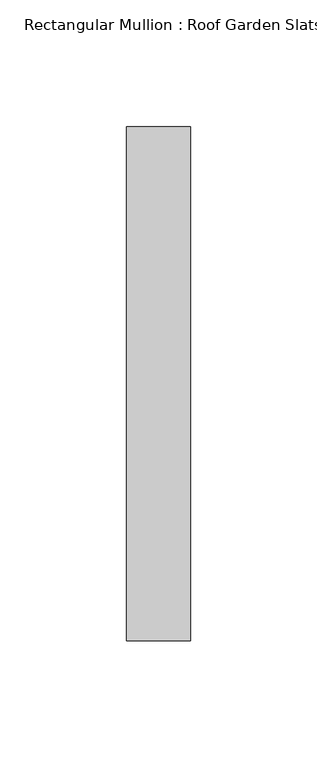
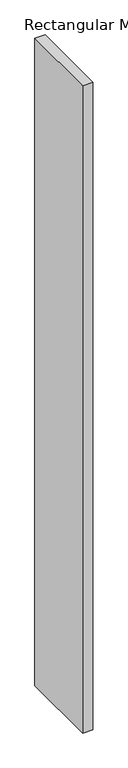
"""IFC4 building model written with IfcOpenShell, lengths in millimetres: member geometry, Rectangular Mullion : Roof Garden Slats."""

import ifcopenshell
import ifcopenshell.guid

model = None  # the IFC model being written
_history = None  # IfcOwnerHistory: only IFC2X3 demands one
_inside = {}  # id of a spatial element -> (the spatial element, [elements in it])
_under = {}  # id of a project, library or spatial element -> (it, [spatial elements below it])
_declared = {}  # id of a project -> (the project, [libraries it declares])
_typed = {}  # id of a type object -> (the type object, [elements of that type])
_made_of = {}  # id of a material, layer set ... -> (it, [elements and type objects made of it])


def new_model(schema):
    """Start an empty IFC model of exactly this schema.

    Asked for "IFC4X3", IfcOpenShell would pick the latest addendum, in which some entities
    have other attributes; the version numbers below select the first issue.
    IFC2X3 requires an IfcOwnerHistory on every rooted entity: one is made here for all.
    """
    global model, _history
    if schema == "IFC4X3":
        model = ifcopenshell.file(schema_version=(4, 3, 0, 0))
    else:
        model = ifcopenshell.file(schema=schema)
    _inside.clear()
    _under.clear()
    _declared.clear()
    _typed.clear()
    _made_of.clear()
    _history = None
    if model.schema == "IFC2X3":
        org = make("IfcOrganization", Name="unknown")
        user = make(
            "IfcPersonAndOrganization",
            ThePerson=make("IfcPerson", FamilyName="unknown"),
            TheOrganization=org,
        )
        app = make(
            "IfcApplication",
            ApplicationDeveloper=org,
            Version="unknown",
            ApplicationFullName="unknown",
            ApplicationIdentifier="unknown",
        )
        _history = make(
            "IfcOwnerHistory",
            OwningUser=user,
            OwningApplication=app,
            ChangeAction="ADDED",
            CreationDate=0,
        )
    return model


def make(cls, **values):
    """One entity of the class cls with the attributes given. An attribute that is None is left unset."""
    return model.create_entity(
        cls, **{name: value for name, value in values.items() if value is not None}
    )


def rooted(cls, **values):
    """An entity with a GlobalId (a new one), such as an element, a storey or a relation."""
    return make(cls, GlobalId=ifcopenshell.guid.new(), OwnerHistory=_history, **values)


def si_unit(unit_type, name, prefix=None):
    """IfcSIUnit, for example si_unit("LENGTHUNIT", "METRE", prefix="MILLI")."""
    return make("IfcSIUnit", UnitType=unit_type, Prefix=prefix, Name=name)


def assignment(units):
    """IfcUnitAssignment: the units of a project."""
    return None if units is None else make("IfcUnitAssignment", Units=units)


def point(xyz):
    """IfcCartesianPoint."""
    return None if xyz is None else make("IfcCartesianPoint", Coordinates=xyz)


def direction(xyz):
    """IfcDirection."""
    return None if xyz is None else make("IfcDirection", DirectionRatios=xyz)


def frame(location, z_axis=None, x_axis=None):
    """IfcAxis2Placement3D, a coordinate frame: its origin and axes. An axis left out is left unset."""
    return make(
        "IfcAxis2Placement3D",
        Location=point(location),
        Axis=direction(z_axis),
        RefDirection=direction(x_axis),
    )


def origin():
    """The frame at (0, 0, 0) with its axes left unset."""
    return frame((0.0, 0.0, 0.0))


def place(relative_to, where):
    """IfcLocalPlacement: puts the frame where relative to a parent placement (None: the world)."""
    return make(
        "IfcLocalPlacement", PlacementRelTo=relative_to, RelativePlacement=where
    )


def context(
    kind, dimensions, precision=None, world=None, true_north=None, identifier=None
):
    """IfcGeometricRepresentationContext, for example the 3D "Model" context."""
    return make(
        "IfcGeometricRepresentationContext",
        ContextIdentifier=identifier,
        ContextType=kind,
        CoordinateSpaceDimension=dimensions,
        Precision=precision,
        WorldCoordinateSystem=world,
        TrueNorth=true_north,
    )


def project(units=None, contexts=None):
    """IfcProject with its units and contexts."""
    return rooted(
        "IfcProject",
        Name="project",
        RepresentationContexts=contexts,
        UnitsInContext=assignment(units),
    )


def spatial(cls, under=None, at=None, **own):
    """A site, building, storey or space (cls), placed at a placement, below another one or the project."""
    s = rooted(cls, ObjectPlacement=at, **own)
    if under is not None:
        _under.setdefault(under.id(), (under, []))[1].append(s)
    return s


def polyline(points):
    """IfcPolyline through the points."""
    return make("IfcPolyline", Points=[point(p) for p in points])


def outline(outer, holes=None, kind="AREA"):
    """IfcArbitraryClosedProfileDef: a profile drawn as a closed curve; with holes, ...WithVoids."""
    if holes is None:
        return make("IfcArbitraryClosedProfileDef", ProfileType=kind, OuterCurve=outer)
    return make(
        "IfcArbitraryProfileDefWithVoids",
        ProfileType=kind,
        OuterCurve=outer,
        InnerCurves=holes,
    )


def extrude(swept, where, along, depth):
    """IfcExtrudedAreaSolid: the profile swept, set in the frame where, extruded along a direction by depth."""
    return make(
        "IfcExtrudedAreaSolid",
        SweptArea=swept,
        Position=where,
        ExtrudedDirection=direction(along),
        Depth=depth,
    )


def shape(context_of_items, identifier, shape_type, items):
    """IfcShapeRepresentation: the items that make up one representation, for example the "Body"."""
    return make(
        "IfcShapeRepresentation",
        ContextOfItems=context_of_items,
        RepresentationIdentifier=identifier,
        RepresentationType=shape_type,
        Items=items,
    )


def source(mapping_origin, context_of_items, identifier, shape_type, items):
    """IfcRepresentationMap: a shape defined once, which mapped items show again and again."""
    return make(
        "IfcRepresentationMap",
        MappingOrigin=mapping_origin,
        MappedRepresentation=shape(context_of_items, identifier, shape_type, items),
    )


def transform(
    local_origin,
    x_axis=None,
    y_axis=None,
    z_axis=None,
    scale=None,
    scale2=None,
    scale3=None,
    uniform=True,
):
    """IfcCartesianTransformationOperator3D, or its non-uniform kind. x_axis, y_axis, z_axis: its Axis1, 2, 3."""
    if uniform:
        return make(
            "IfcCartesianTransformationOperator3D",
            Axis1=direction(x_axis),
            Axis2=direction(y_axis),
            LocalOrigin=point(local_origin),
            Scale=scale,
            Axis3=direction(z_axis),
        )
    return make(
        "IfcCartesianTransformationOperator3DnonUniform",
        Axis1=direction(x_axis),
        Axis2=direction(y_axis),
        LocalOrigin=point(local_origin),
        Scale=scale,
        Axis3=direction(z_axis),
        Scale2=scale2,
        Scale3=scale3,
    )


def mapped(mapping_source, mapping_target):
    """IfcMappedItem: shows the shape of a source again, moved by a transform."""
    return make(
        "IfcMappedItem", MappingSource=mapping_source, MappingTarget=mapping_target
    )


def made_of(thing, what):
    """Note that an element or type object is made of a material, layer set ...; save() writes the relation."""
    if what is not None:
        _made_of.setdefault(what.id(), (what, []))[1].append(thing)
    return thing


def element(
    cls,
    number,
    at=None,
    inside=None,
    cuts=None,
    type_object=None,
    material=None,
    context=None,
    identifier="Body",
    shape_type=None,
    held_by="IfcProductDefinitionShape",
    body=None,
    shapes=None,
    **own,
):
    """One element of the class cls, such as IfcWall. Its Tag is "e" and its number.

    at: its placement. inside: the storey or other place that contains it. cuts: it is an
    opening in that element (IfcRelVoidsElement). A single representation is given by context,
    identifier, shape_type and body (its items); several are given by shapes. held_by: the class
    of the entity that holds the representations. save() writes the other relations.
    """
    e = rooted(cls, Tag="e%d" % number, ObjectPlacement=at, **own)
    if body is not None:
        shapes = [shape(context, identifier, shape_type, body)]
    if shapes is not None:
        e.Representation = make(held_by, Representations=shapes)
    if inside is not None:
        _inside.setdefault(inside.id(), (inside, []))[1].append(e)
    if cuts is not None:
        rooted(
            "IfcRelVoidsElement", RelatingBuildingElement=cuts, RelatedOpeningElement=e
        )
    if type_object is not None:
        _typed.setdefault(type_object.id(), (type_object, []))[1].append(e)
    return made_of(e, material)


def aggregate(whole, parts):
    """IfcRelAggregates: a whole, such as a stair, and the parts it consists of."""
    return rooted("IfcRelAggregates", RelatingObject=whole, RelatedObjects=parts)


def save(model, path):
    """Write the relations noted so far, then the file.

    IfcRelAggregates (storeys below a building ...), IfcRelContainedInSpatialStructure (elements
    in a storey), IfcRelDefinesByType, IfcRelAssociatesMaterial and IfcRelDeclares: one each for
    every whole, place, type object, material and project.
    """
    for whole, parts in _under.values():
        aggregate(whole, parts)
    for where, things in _inside.values():
        rooted(
            "IfcRelContainedInSpatialStructure",
            RelatedElements=things,
            RelatingStructure=where,
        )
    for kind, things in _typed.values():
        rooted("IfcRelDefinesByType", RelatedObjects=things, RelatingType=kind)
    for what, things in _made_of.values():
        rooted("IfcRelAssociatesMaterial", RelatedObjects=things, RelatingMaterial=what)
    for by, libraries in _declared.values():
        rooted("IfcRelDeclares", RelatingContext=by, RelatedDefinitions=libraries)
    model.write(path)


def rectangular_mullion_roof_garden_slats_032c0a5a(model_context):
    return source(origin(), model_context, "Body", "SweptSolid", [
        extrude(outline(polyline([(12.7, 139.7), (12.7, -63.5), (-12.7, -63.5), (-12.7, 139.7), (12.7, 139.7)])), frame((0.0, 0.0, -1684.5256599), z_axis=(0.0, 0.0, 1.0), x_axis=(1.0, 0.0, 0.0)), (0.0, 0.0, 1.0), 1684.5256599),
    ])


if __name__ == "__main__":
    model = new_model("IFC4")
    model_context = context("Model", 3, world=origin())
    ifc_project = project(units=[si_unit("LENGTHUNIT", "METRE", prefix="MILLI")], contexts=[model_context])
    site = spatial("IfcSite", under=ifc_project)
    building = spatial("IfcBuilding", under=site)
    placement = place(None, origin())
    rectangular_mullion_roof_garden_slats_shape = rectangular_mullion_roof_garden_slats_032c0a5a(model_context)
    element("IfcMember", 1, ObjectType="Rectangular Mullion : Roof Garden Slats", at=placement, inside=building, context=model_context, shape_type="MappedRepresentation", body=[
        mapped(rectangular_mullion_roof_garden_slats_shape, transform((0.0, 0.0, 0.0), x_axis=(1.0, 0.0, 0.0), y_axis=(0.0, 1.0, 0.0), z_axis=(0.0, 0.0, 1.0))),
    ])
    save(model, "model.ifc")
